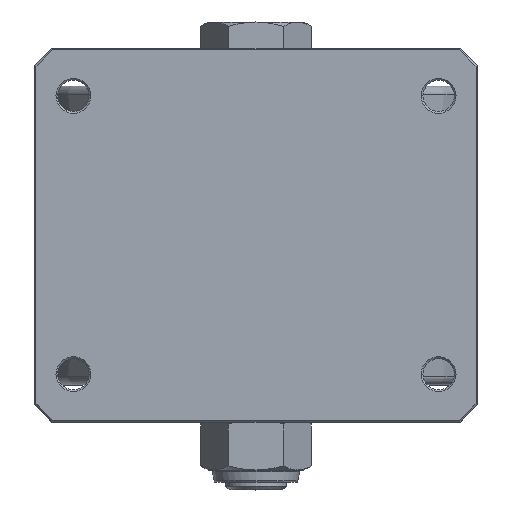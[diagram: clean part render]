
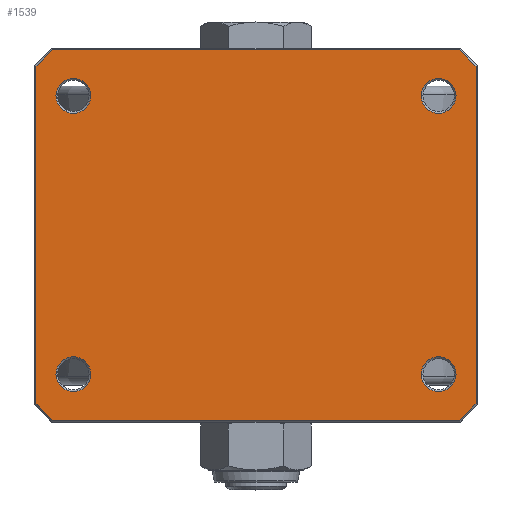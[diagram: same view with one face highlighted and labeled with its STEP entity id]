
A CAD part, top view. The second image highlights one B-rep face of the part: STEP entity #1539.
In plain terms, the highlighted planar face has unit normal (0, 0, 1).
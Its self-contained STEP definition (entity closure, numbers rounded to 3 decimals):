
#1424=CARTESIAN_POINT('',(-153.04,275.818,8.));
#1425=DIRECTION('',(0.0,0.0,1.0));
#1426=DIRECTION('',(1.0,0.0,0.0));
#1427=AXIS2_PLACEMENT_3D('',#1424,#1425,#1426);
#1428=PLANE('',#1427);
#1429=CARTESIAN_POINT('',(-26.54,178.732,8.));
#1430=VERTEX_POINT('',#1429);
#1431=CARTESIAN_POINT('',(-35.954,169.318,8.));
#1432=VERTEX_POINT('',#1431);
#1433=CARTESIAN_POINT('',(-26.54,178.732,8.));
#1434=DIRECTION('',(-0.707,-0.707,0.0));
#1435=VECTOR('',#1434,13.314);
#1436=LINE('',#1433,#1435);
#1437=EDGE_CURVE('',#1430,#1432,#1436,.T.);
#1438=ORIENTED_EDGE('',*,*,#1437,.F.);
#1439=CARTESIAN_POINT('',(-26.54,372.904,8.));
#1440=VERTEX_POINT('',#1439);
#1441=CARTESIAN_POINT('',(-26.54,372.904,8.));
#1442=DIRECTION('',(0.0,-1.0,0.0));
#1443=VECTOR('',#1442,194.172);
#1444=LINE('',#1441,#1443);
#1445=EDGE_CURVE('',#1440,#1430,#1444,.T.);
#1446=ORIENTED_EDGE('',*,*,#1445,.F.);
#1447=CARTESIAN_POINT('',(-35.954,382.318,8.));
#1448=VERTEX_POINT('',#1447);
#1449=CARTESIAN_POINT('',(-35.954,382.318,8.));
#1450=DIRECTION('',(0.707,-0.707,0.0));
#1451=VECTOR('',#1450,13.314);
#1452=LINE('',#1449,#1451);
#1453=EDGE_CURVE('',#1448,#1440,#1452,.T.);
#1454=ORIENTED_EDGE('',*,*,#1453,.F.);
#1455=CARTESIAN_POINT('',(-270.126,382.318,8.));
#1456=VERTEX_POINT('',#1455);
#1457=CARTESIAN_POINT('',(-270.126,382.318,8.));
#1458=DIRECTION('',(1.0,0.0,0.0));
#1459=VECTOR('',#1458,234.172);
#1460=LINE('',#1457,#1459);
#1461=EDGE_CURVE('',#1456,#1448,#1460,.T.);
#1462=ORIENTED_EDGE('',*,*,#1461,.F.);
#1463=CARTESIAN_POINT('',(-279.54,372.904,8.));
#1464=VERTEX_POINT('',#1463);
#1465=CARTESIAN_POINT('',(-279.54,372.904,8.));
#1466=DIRECTION('',(0.707,0.707,0.0));
#1467=VECTOR('',#1466,13.314);
#1468=LINE('',#1465,#1467);
#1469=EDGE_CURVE('',#1464,#1456,#1468,.T.);
#1470=ORIENTED_EDGE('',*,*,#1469,.F.);
#1471=CARTESIAN_POINT('',(-279.54,178.732,8.));
#1472=VERTEX_POINT('',#1471);
#1473=CARTESIAN_POINT('',(-279.54,178.732,8.));
#1474=DIRECTION('',(0.0,1.0,0.0));
#1475=VECTOR('',#1474,194.172);
#1476=LINE('',#1473,#1475);
#1477=EDGE_CURVE('',#1472,#1464,#1476,.T.);
#1478=ORIENTED_EDGE('',*,*,#1477,.F.);
#1479=CARTESIAN_POINT('',(-270.126,169.318,8.));
#1480=VERTEX_POINT('',#1479);
#1481=CARTESIAN_POINT('',(-270.126,169.318,8.));
#1482=DIRECTION('',(-0.707,0.707,0.0));
#1483=VECTOR('',#1482,13.314);
#1484=LINE('',#1481,#1483);
#1485=EDGE_CURVE('',#1480,#1472,#1484,.T.);
#1486=ORIENTED_EDGE('',*,*,#1485,.F.);
#1487=CARTESIAN_POINT('',(-35.954,169.318,8.));
#1488=DIRECTION('',(-1.0,0.0,0.0));
#1489=VECTOR('',#1488,234.172);
#1490=LINE('',#1487,#1489);
#1491=EDGE_CURVE('',#1432,#1480,#1490,.T.);
#1492=ORIENTED_EDGE('',*,*,#1491,.F.);
#1493=EDGE_LOOP('',(#1438,#1446,#1454,#1462,#1470,#1478,#1486,#1492));
#1494=FACE_OUTER_BOUND('',#1493,.T.);
#1495=CARTESIAN_POINT('',(-38.04,195.818,8.));
#1496=VERTEX_POINT('',#1495);
#1497=CARTESIAN_POINT('',(-48.04,195.818,8.));
#1498=DIRECTION('',(0.0,0.0,1.0));
#1499=DIRECTION('',(-1.0,0.0,0.0));
#1500=AXIS2_PLACEMENT_3D('',#1497,#1498,#1499);
#1501=CIRCLE('',#1500,10.0);
#1502=EDGE_CURVE('',#1496,#1496,#1501,.T.);
#1503=ORIENTED_EDGE('',*,*,#1502,.F.);
#1504=EDGE_LOOP('',(#1503));
#1505=FACE_BOUND('',#1504,.T.);
#1506=CARTESIAN_POINT('',(-248.04,355.818,8.));
#1507=VERTEX_POINT('',#1506);
#1508=CARTESIAN_POINT('',(-258.04,355.818,8.));
#1509=DIRECTION('',(0.0,0.0,1.0));
#1510=DIRECTION('',(-1.0,0.0,0.0));
#1511=AXIS2_PLACEMENT_3D('',#1508,#1509,#1510);
#1512=CIRCLE('',#1511,10.0);
#1513=EDGE_CURVE('',#1507,#1507,#1512,.T.);
#1514=ORIENTED_EDGE('',*,*,#1513,.F.);
#1515=EDGE_LOOP('',(#1514));
#1516=FACE_BOUND('',#1515,.T.);
#1517=CARTESIAN_POINT('',(-248.04,195.818,8.));
#1518=VERTEX_POINT('',#1517);
#1519=CARTESIAN_POINT('',(-258.04,195.818,8.));
#1520=DIRECTION('',(0.0,0.0,1.0));
#1521=DIRECTION('',(-1.0,0.0,0.0));
#1522=AXIS2_PLACEMENT_3D('',#1519,#1520,#1521);
#1523=CIRCLE('',#1522,10.0);
#1524=EDGE_CURVE('',#1518,#1518,#1523,.T.);
#1525=ORIENTED_EDGE('',*,*,#1524,.F.);
#1526=EDGE_LOOP('',(#1525));
#1527=FACE_BOUND('',#1526,.T.);
#1528=CARTESIAN_POINT('',(-38.04,355.818,8.));
#1529=VERTEX_POINT('',#1528);
#1530=CARTESIAN_POINT('',(-48.04,355.818,8.));
#1531=DIRECTION('',(0.0,0.0,1.0));
#1532=DIRECTION('',(-1.0,0.0,0.0));
#1533=AXIS2_PLACEMENT_3D('',#1530,#1531,#1532);
#1534=CIRCLE('',#1533,10.0);
#1535=EDGE_CURVE('',#1529,#1529,#1534,.T.);
#1536=ORIENTED_EDGE('',*,*,#1535,.F.);
#1537=EDGE_LOOP('',(#1536));
#1538=FACE_BOUND('',#1537,.T.);
#1539=ADVANCED_FACE('',(#1494,#1505,#1516,#1527,#1538),#1428,.T.);
